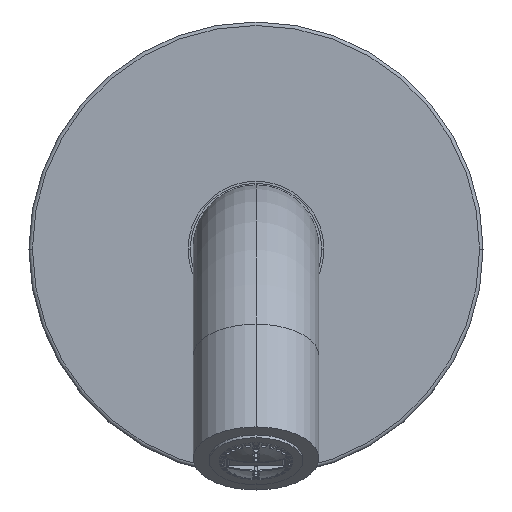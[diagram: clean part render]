
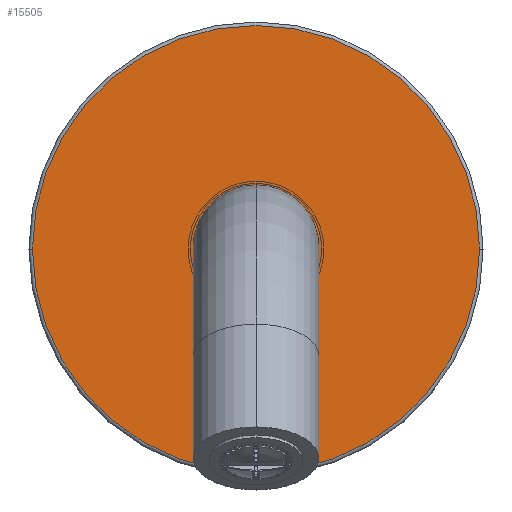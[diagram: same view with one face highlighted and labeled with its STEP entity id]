
A CAD part, top view. The second image highlights one B-rep face of the part: STEP entity #15505.
In plain terms, the highlighted planar face has unit normal (0, 0, 1).
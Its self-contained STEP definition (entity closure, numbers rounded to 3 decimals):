
#65=CARTESIAN_POINT('',(0.,0.,4.));
#66=DIRECTION('',(0.,0.,-1.));
#67=DIRECTION('',(-1.,0.,0.));
#68=AXIS2_PLACEMENT_3D('',#65,#66,#67);
#70=CARTESIAN_POINT('',(0.,0.,4.));
#71=DIRECTION('',(0.,0.,-1.));
#72=DIRECTION('',(1.,0.,0.));
#73=AXIS2_PLACEMENT_3D('',#70,#71,#72);
#75=CARTESIAN_POINT('',(0.,0.,4.));
#76=DIRECTION('',(0.,0.,-1.));
#77=DIRECTION('',(0.,-1.,0.));
#78=AXIS2_PLACEMENT_3D('',#75,#76,#77);
#89=CARTESIAN_POINT('',(0.,0.,4.));
#90=DIRECTION('',(0.,0.,-1.));
#91=DIRECTION('',(0.,1.,0.));
#92=AXIS2_PLACEMENT_3D('',#89,#90,#91);
#11721=CARTESIAN_POINT('',(-32.,0.,4.));
#11722=CARTESIAN_POINT('',(32.,0.,4.));
#11723=VERTEX_POINT('',#11721);
#11724=VERTEX_POINT('',#11722);
#15373=CARTESIAN_POINT('',(0.,-9.,4.));
#15374=CARTESIAN_POINT('',(0.,9.,4.));
#15375=VERTEX_POINT('',#15373);
#15376=VERTEX_POINT('',#15374);
#15490=CARTESIAN_POINT('',(0.,0.,4.));
#15491=DIRECTION('',(0.,0.,1.));
#15492=DIRECTION('',(1.,0.,0.));
#15493=AXIS2_PLACEMENT_3D('',#15490,#15491,#15492);
#15494=PLANE('',#15493);
#15495=ORIENTED_EDGE('',*,*,#15436,.T.);
#15496=ORIENTED_EDGE('',*,*,#15458,.T.);
#15497=EDGE_LOOP('',(#15495,#15496));
#15498=FACE_OUTER_BOUND('',#15497,.F.);
#15500=ORIENTED_EDGE('',*,*,#15499,.F.);
#15502=ORIENTED_EDGE('',*,*,#15501,.F.);
#15503=EDGE_LOOP('',(#15500,#15502));
#15504=FACE_BOUND('',#15503,.F.);
#69=CIRCLE('',#68,32.);
#74=CIRCLE('',#73,32.);
#79=CIRCLE('',#78,9.);
#93=CIRCLE('',#92,9.);
#15436=EDGE_CURVE('',#11723,#11724,#69,.T.);
#15458=EDGE_CURVE('',#11724,#11723,#74,.T.);
#15499=EDGE_CURVE('',#15375,#15376,#79,.T.);
#15501=EDGE_CURVE('',#15376,#15375,#93,.T.);
#15505=ADVANCED_FACE('',(#15498,#15504),#15494,.T.);
